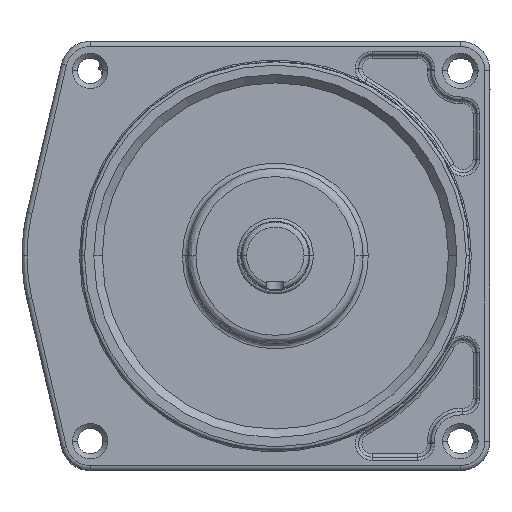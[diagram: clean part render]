
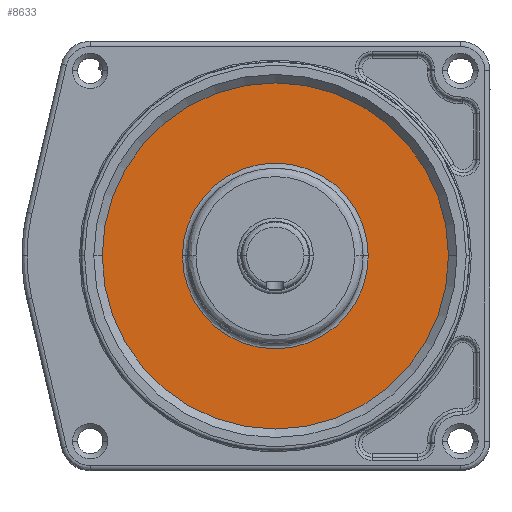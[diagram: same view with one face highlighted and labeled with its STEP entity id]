
A CAD part, top view. The second image highlights one B-rep face of the part: STEP entity #8633.
In plain terms, the highlighted planar face has unit normal (0, 0, 1) as drawn and (0, 1, 0) by its records, which use the part's own axes.
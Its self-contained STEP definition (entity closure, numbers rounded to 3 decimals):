
#7802 = EDGE_CURVE ( 'NONE', #7861, #7862, #57302, .T. ) ;
#7848 = VERTEX_POINT ( 'NONE', #57478 ) ;
#7850 = EDGE_CURVE ( 'NONE', #7848, #7851, #57477, .T. ) ;
#7851 = VERTEX_POINT ( 'NONE', #57472 ) ;
#7861 = VERTEX_POINT ( 'NONE', #57489 ) ;
#7862 = VERTEX_POINT ( 'NONE', #57488 ) ;
#8632 = EDGE_CURVE ( 'NONE', #7851, #7848, #61259, .T. ) ;
#8633 = ADVANCED_FACE ( 'NONE', ( #61257, #61252 ), #61251, .T. ) ;
#8634 = EDGE_LOOP ( 'NONE', ( #8689, #8690 ) ) ;
#8689 = ORIENTED_EDGE ( 'NONE', *, *, #8632, .F. ) ;
#8690 = ORIENTED_EDGE ( 'NONE', *, *, #7850, .F. ) ;
#8691 = EDGE_LOOP ( 'NONE', ( #8692, #8693 ) ) ;
#8692 = ORIENTED_EDGE ( 'NONE', *, *, #7802, .F. ) ;
#8693 = ORIENTED_EDGE ( 'NONE', *, *, #8694, .F. ) ;
#8694 = EDGE_CURVE ( 'NONE', #7862, #7861, #61420, .T. ) ;
#57302 = CIRCLE ( 'NONE', #57338, 102.5 ) ;
#57304 = CARTESIAN_POINT ( 'NONE',  ( 0., 139.5, -36. ) ) ;
#57336 = DIRECTION ( 'NONE',  ( 1., 0., 0. ) ) ;
#57337 = DIRECTION ( 'NONE',  ( 0., -1., 0. ) ) ;
#57338 = AXIS2_PLACEMENT_3D ( 'NONE', #57304, #57337, #57336 ) ;
#57472 = CARTESIAN_POINT ( 'NONE',  ( 0., 139.5, 19. ) ) ;
#57473 = DIRECTION ( 'NONE',  ( -1., 0., 0. ) ) ;
#57474 = DIRECTION ( 'NONE',  ( 0., 1., 0. ) ) ;
#57475 = CARTESIAN_POINT ( 'NONE',  ( 0., 139.5, -36. ) ) ;
#57476 = AXIS2_PLACEMENT_3D ( 'NONE', #57475, #57474, #57473 ) ;
#57477 = CIRCLE ( 'NONE', #57476, 55. ) ;
#57478 = CARTESIAN_POINT ( 'NONE',  ( 0., 139.5, -91. ) ) ;
#57488 = CARTESIAN_POINT ( 'NONE',  ( 0., 139.5, -138.5 ) ) ;
#57489 = CARTESIAN_POINT ( 'NONE',  ( 0., 139.5, 66.5 ) ) ;
#61250 = AXIS2_PLACEMENT_3D ( 'NONE', #61289, #61288, #61287 ) ;
#61251 = PLANE ( 'NONE',  #61250 ) ;
#61252 = FACE_OUTER_BOUND ( 'NONE', #8691, .T. ) ;
#61253 = DIRECTION ( 'NONE',  ( -1., 0., 0. ) ) ;
#61254 = DIRECTION ( 'NONE',  ( 0., 1., 0. ) ) ;
#61255 = CARTESIAN_POINT ( 'NONE',  ( 0., 139.5, -36. ) ) ;
#61256 = AXIS2_PLACEMENT_3D ( 'NONE', #61255, #61254, #61253 ) ;
#61257 = FACE_BOUND ( 'NONE', #8634, .T. ) ;
#61259 = CIRCLE ( 'NONE', #61256, 55. ) ;
#61287 = DIRECTION ( 'NONE',  ( 0., 0., 1. ) ) ;
#61288 = DIRECTION ( 'NONE',  ( 0., 1., 0. ) ) ;
#61289 = CARTESIAN_POINT ( 'NONE',  ( -106.6, 139.5, 70.688 ) ) ;
#61419 = AXIS2_PLACEMENT_3D ( 'NONE', #61469, #61468, #61467 ) ;
#61420 = CIRCLE ( 'NONE', #61419, 102.5 ) ;
#61467 = DIRECTION ( 'NONE',  ( 1., 0., 0. ) ) ;
#61468 = DIRECTION ( 'NONE',  ( 0., -1., 0. ) ) ;
#61469 = CARTESIAN_POINT ( 'NONE',  ( 0., 139.5, -36. ) ) ;
